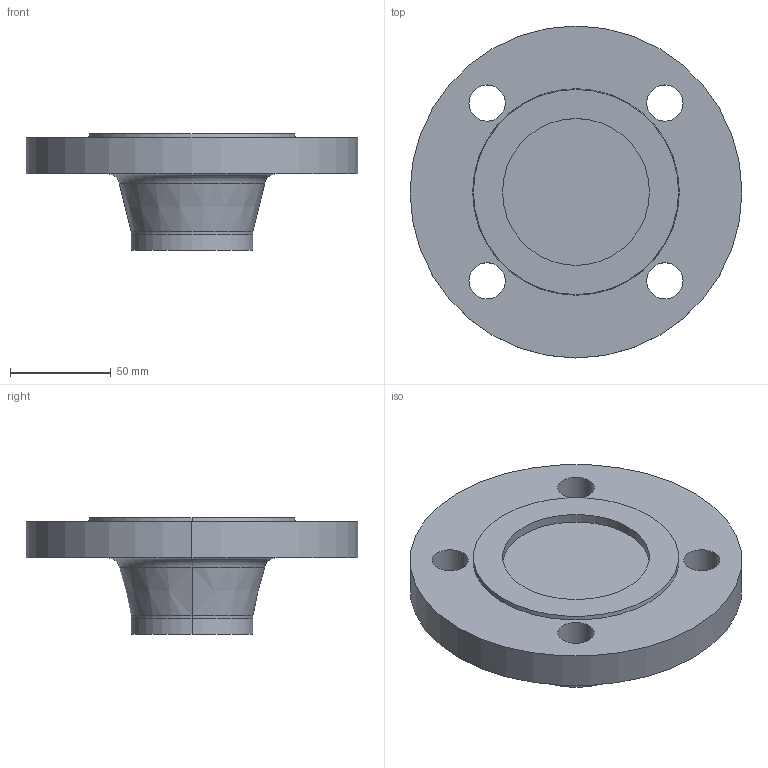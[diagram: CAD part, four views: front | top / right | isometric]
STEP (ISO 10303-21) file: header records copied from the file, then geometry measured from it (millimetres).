
FILE_DESCRIPTION (( 'STEP AP214' ), '1' );
FILE_NAME ('PN40 DN50 Type 21(ii) - Type G Face.STEP', '2018-12-30T03:18:07', ( '' ), ( '' ), 'SwSTEP 2.0', 'SolidWorks 2019', '' );
FILE_SCHEMA (( 'AUTOMOTIVE_DESIGN' ));
Length unit declared in the file: millimetre
Products named in the file (1): PN40 DN50 Type 21(ii) - Type G Face
Bounding box: 165 x 165 x 58 mm (x, y, z)
Volume: 495092.4 mm3; surface area: 61900.7 mm2
Topology: 1 solids, 1 shells, 27 faces, 60 edges, 38 vertices
Faces by surface type: cylinder 14, plane 5, torus 4, cone 4
Entity records: 818 total; most frequent: DIRECTION 158, CARTESIAN_POINT 126, ORIENTED_EDGE 120, AXIS2_PLACEMENT_3D 70, EDGE_CURVE 60, CIRCLE 42, VERTEX_POINT 38, EDGE_LOOP 38
